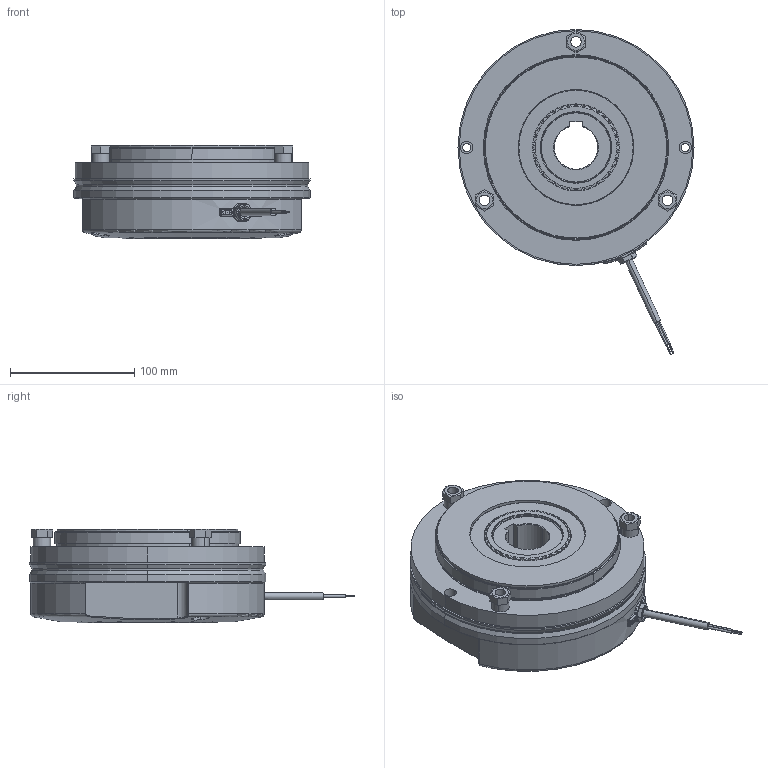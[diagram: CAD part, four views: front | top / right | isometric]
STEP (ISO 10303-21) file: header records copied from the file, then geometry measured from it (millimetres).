
FILE_DESCRIPTION (( 'STEP AP214' ), '1' );
FILE_NAME ('0738 ohne HL.STEP', '2025-03-26T12:25:18', ( '' ), ( '' ), 'SwSTEP 2.0', 'SolidWorks 2022', '' );
FILE_SCHEMA (( 'AUTOMOTIVE_DESIGN' ));
Length unit declared in the file: millimetre
Products named in the file (6): 10068447_000_07.08.540-G352 Nabe; 0738 ohne HL; 10068444_000; 10068445_000; 10068446_000; 10068448_000
Assembly tree (7 placements, depth 2):
  0738 ohne HL
    10068444_000
    10068445_000
    10068448_000
    10068446_000  x3
    10068447_000_07.08.540-G352 Nabe
Bounding box: 190 x 261.53 x 75.5 mm (x, y, z)
Volume: 1641733.8 mm3; surface area: 266242.4 mm2
Topology: 10 solids, 10 shells, 963 faces, 2477 edges, 1555 vertices
Faces by surface type: cylinder 311, plane 288, cone 167, torus 141, bspline 50, sphere 6
Entity records: 39913 total; most frequent: CARTESIAN_POINT 10016, ORIENTED_EDGE 4790, DIRECTION 4452, EDGE_CURVE 2395, AXIS2_PLACEMENT_3D 1798, VERTEX_POINT 1507, EDGE_LOOP 994, ADVANCED_FACE 929
